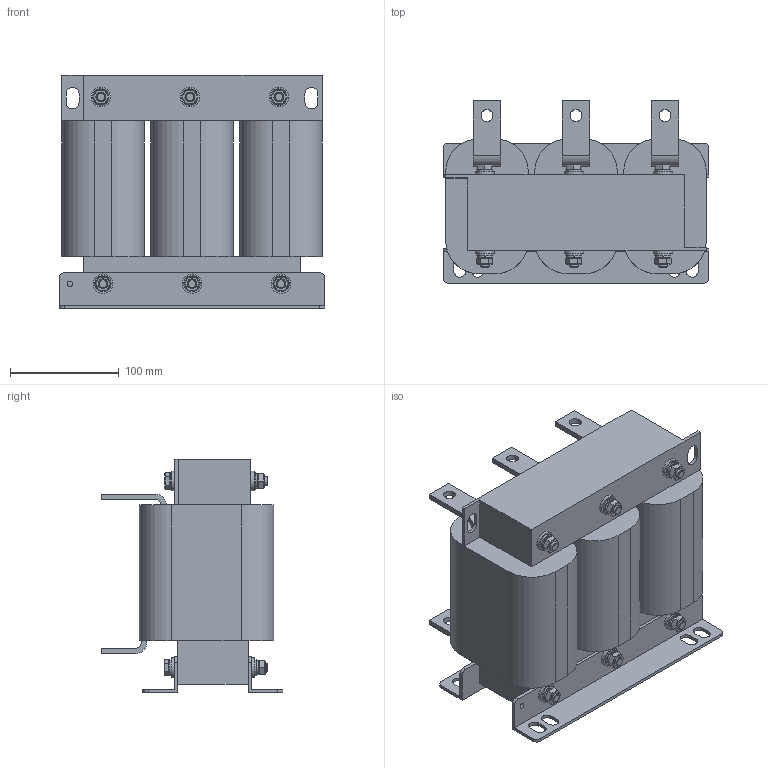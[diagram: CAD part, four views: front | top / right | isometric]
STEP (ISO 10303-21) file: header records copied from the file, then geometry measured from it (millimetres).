
FILE_DESCRIPTION(('STEP AP203'), '1');
FILE_NAME('栖闉罻 _ ISF-110_214-4', '', ('UNSPECIFIED'), ('UNSPECIFIED'), 'ASCON STEP Converter 1.6', 'ASCON Math Kernel', '');
FILE_SCHEMA(('CONFIG_CONTROL_DESIGN'));
Length unit declared in the file: millimetre
Products named in the file (12): ISF-110_214-4
Assembly tree (55 placements, depth 2):
  ISF-110_214-4
    ISF-110_214-4
    ISF-110_214-4  x2
    ISF-110_214-4  x3
    ISF-110_214-4
    ISF-110_214-4  x3
    ISF-110_214-4  x3
    ISF-110_214-4  x12
    ISF-110_214-4  x12
    ISF-110_214-4  x6
    ISF-110_214-4  x6
    ISF-110_214-4  x6
Bounding box: 245 x 167.5 x 215 mm (x, y, z)
Volume: 4504299.2 mm3; surface area: 410026.3 mm2
Topology: 55 solids, 55 shells, 592 faces, 1266 edges, 790 vertices
Faces by surface type: plane 430, cylinder 132, cone 18, torus 12
Full cylindrical faces by diameter (mm): 5 x2, 8 x48, 11 x6, 15 x12, 18 x12
Entity records: 6386 total; most frequent: CARTESIAN_POINT 1084, DIRECTION 842, ORIENTED_EDGE 678, EDGE_CURVE 339, AXIS2_PLACEMENT_3D 299, LINE 244, VECTOR 244, VERTEX_POINT 231
